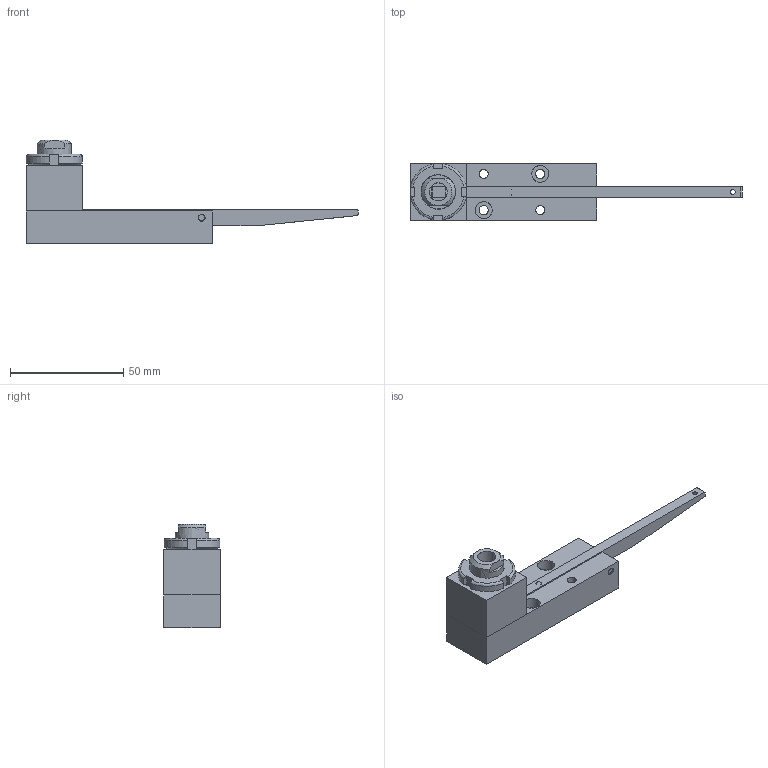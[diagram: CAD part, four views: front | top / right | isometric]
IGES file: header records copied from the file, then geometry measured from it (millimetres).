
Global section: file name: 183.00; native system: Autodesk Inventor 2014; preprocessor: unknown; author: AP; date: 20150507.161434; units: millimetre
Bounding box: 146.5 x 25 x 45.75 mm (x, y, z)
Volume: 41735.1 mm3; surface area: 22662.2 mm2
Topology: 11 solids, 11 shells, 190 faces, 525 edges, 366 vertices
Faces by surface type: bspline 190
